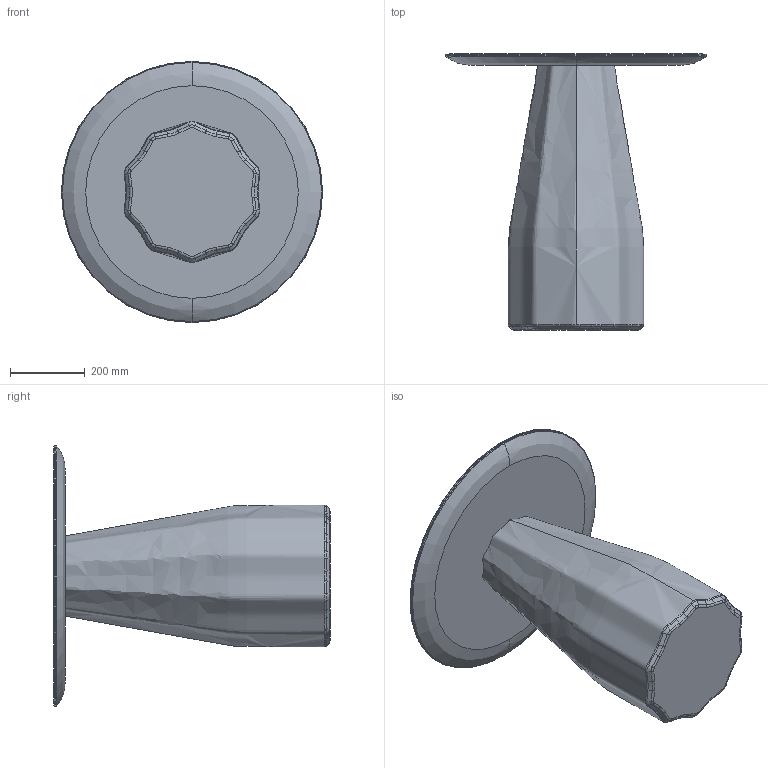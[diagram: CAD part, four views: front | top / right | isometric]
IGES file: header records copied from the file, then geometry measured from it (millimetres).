
Start section: SolidWorks IGES file using analytic representation for surfaces
Global section: file name: Z:\01-VICCARBE\VICCARBE TECNICO 2018\6.-Studio VCCB\Otros\Burin\Modelado\WEB\Nueva carpeta\BurinH74D70.IGS; native system: SolidWorks 2013; preprocessor: SolidWorks 2013; author: Usuario; date: 190219.125459; units: millimetre
Bounding box: 700 x 740 x 700 mm (x, y, z)
Volume: 66911276.3 mm3; surface area: 1647201 mm2
Topology: 2 solids, 2 shells, 136 faces, 348 edges, 216 vertices
Faces by surface type: bspline 122, revolution 10, plane 4
